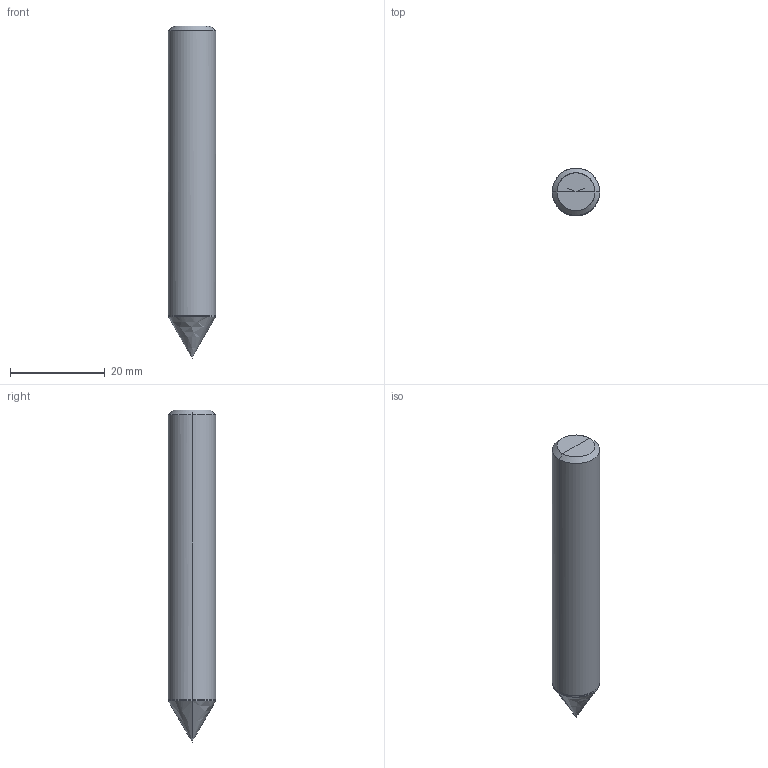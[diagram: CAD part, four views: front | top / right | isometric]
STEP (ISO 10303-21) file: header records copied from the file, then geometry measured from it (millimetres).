
FILE_DESCRIPTION(/* description */ (''),/* implementation_level */ '2;1');
FILE_NAME(/*name*/ '4071-10F-60',/*time_stamp*/'2021-6-30T11:30:53',/*author*/ ('ISBE GmbH'),/*organization*/ ('ISBE GmbH'),/*preprocessor_version*/ 'STEP IO v1.0',/*originating_system*/ '',/*authorisation*/ '');
FILE_SCHEMA (('AUTOMOTIVE_DESIGN'));
Length unit declared in the file: millimetre
Products named in the file (1): Document
Bounding box: 10 x 9.98 x 70 mm (x, y, z)
Surface area: 2303.3 mm2 (no closed solid volume)
Topology: 0 solids, 14 shells, 14 faces, 60 edges, 56 vertices
Faces by surface type: bspline 14
Entity records: 527 total; most frequent: CARTESIAN_POINT 254, VERTEX_POINT 48, EDGE_CURVE 48, ORIENTED_EDGE 48, DIRECTION 16, EDGE_LOOP 14, FACE_OUTER_BOUND 14, ADVANCED_FACE 14
